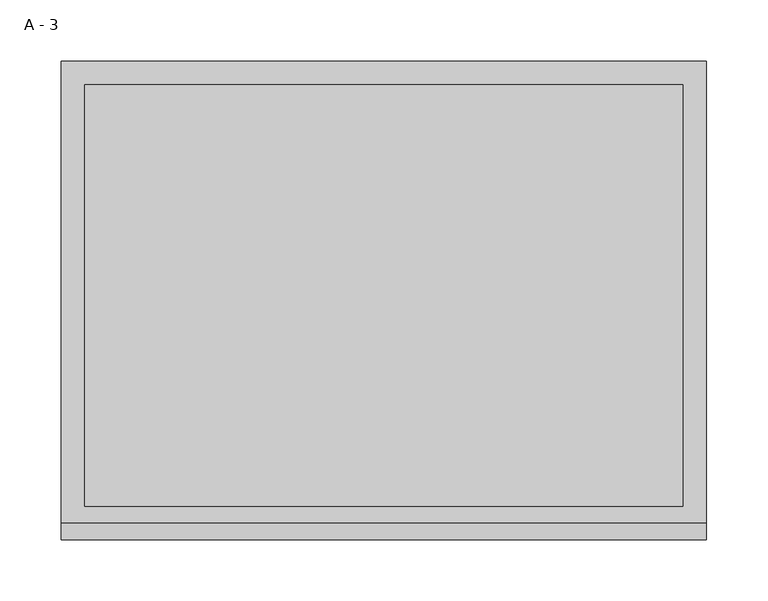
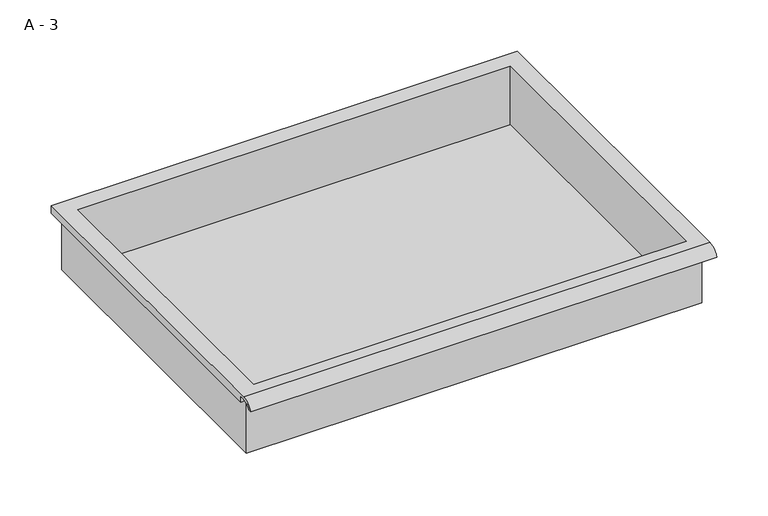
"""IFC4 building model written with IfcOpenShell, lengths in millimetres: furniture geometry, HermanMiller_CoStruc_CO207_Drawer : A - 3."""

from ifc_helpers import new_model, si_unit, frame, origin, place, context, project, spatial, polyline, circle_curve, source, transform, mapped, element, save
from ifc_brep_helpers import plane_surface, cylinder_surface, revolved_surface, advanced_brep


def a_3_75e6b637(model_context):
    return source(origin(), model_context, "Body", "AdvancedBrep", [
        advanced_brep(
        [(-257.1076517, -176.2125, 1308.1), (257.2423483, -176.2125, 1308.1), (257.2423483, -176.2125, 1371.6), (263.5923483, -176.2125, 1371.6), (263.5923483, -176.2125, 1377.9071341), (-263.4576517, -176.2125, 1377.9071341), (-263.4576517, -176.2125, 1371.6), (-257.1076517, -176.2125, 1371.6), (257.2423483, 185.7375, 1308.1), (-257.1076517, 185.7375, 1308.1), (-257.1076517, 185.7375, 1371.6), (257.2423483, 185.7375, 1371.6), (263.5923483, -181.6070544, 1381.125), (263.5923483, 195.2625, 1381.125), (-263.4576517, 195.2625, 1381.125), (-263.4576517, -181.6070544, 1381.125), (244.5423483, -168.275, 1381.125), (-244.4076517, -168.275, 1381.125), (-244.4076517, 176.2125, 1381.125), (244.5423483, 176.2125, 1381.125), (263.5923483, -195.2625, 1371.6), (263.5923483, -191.8280601, 1371.6), (263.5923483, -180.4714815, 1377.9071341), (263.5923483, 195.2625, 1371.6), (-263.4576517, 195.2625, 1371.6), (-263.4576517, -180.4714815, 1377.9071341), (-263.4576517, -191.8280601, 1371.6), (-263.4576517, -195.2625, 1371.6), (-244.4076517, -168.275, 1311.1261719), (244.5423483, -168.275, 1311.1261719), (244.5423483, 176.2125, 1311.1261719), (-244.4076517, 176.2125, 1311.1261719)],
        [
            (0, 1),
            (1, 2),
            (2, 3),
            (3, 4),
            (4, 5),
            (5, 6),
            (6, 7),
            (7, 0),
            (8, 9),
            (9, 10),
            (10, 11),
            (11, 8),
            (0, 9),
            (8, 1),
            (11, 2),
            (12, 13),
            (13, 14),
            (14, 15),
            (15, 12),
            (16, 17),
            (17, 18),
            (18, 19),
            (19, 16),
            (7, 10),
            (12, 20, circle_curve(frame((263.5923483, -181.6070544, 1366.5739859), z_axis=(1.0, 0.0, 0.0), x_axis=(0.0, 1.0, 0.0)), 14.5510141)),
            (20, 21),
            (21, 22, circle_curve(frame((263.5923483, -181.6070544, 1366.5739859), z_axis=(-1.0, 0.0, 0.0), x_axis=(0.0, 1.0, 0.0)), 11.3898979)),
            (22, 4),
            (3, 23),
            (23, 13),
            (14, 24),
            (24, 6),
            (5, 25),
            (25, 26, circle_curve(frame((-263.4576517, -181.6070544, 1366.5739859), z_axis=(1.0, 0.0, 0.0), x_axis=(0.0, 1.0, 0.0)), 11.3898979)),
            (26, 27),
            (27, 15, circle_curve(frame((-263.4576517, -181.6070544, 1366.5739859), z_axis=(-1.0, 0.0, 0.0), x_axis=(0.0, 1.0, 0.0)), 14.5510141)),
            (27, 20),
            (26, 21),
            (25, 22),
            (24, 23),
            (28, 29),
            (29, 30),
            (30, 31),
            (31, 28),
            (28, 17),
            (16, 29),
            (19, 30),
            (18, 31),
        ],
        [
            plane_surface(frame((257.2423483, -176.2125, 1308.1), z_axis=(0.0, -1.0, 0.0), x_axis=(1.0, 0.0, 0.0))),
            plane_surface(frame((257.2423483, 185.7375, 1308.1), z_axis=(0.0, 1.0, 0.0), x_axis=(-1.0, 0.0, 0.0))),
            plane_surface(frame((-257.1076517, -176.2125, 1308.1), z_axis=(0.0, 0.0, -1.0), x_axis=(0.0, 1.0, 0.0))),
            plane_surface(frame((257.2423483, -176.2125, 1308.1), z_axis=(1.0, 0.0, 0.0), x_axis=(0.0, 1.0, 0.0))),
            plane_surface(frame((257.2423483, -176.2125, 1381.125), z_axis=(0.0, 0.0, 1.0), x_axis=(0.0, 1.0, 0.0))),
            plane_surface(frame((-257.1076517, -176.2125, 1381.125), z_axis=(-1.0, 0.0, 0.0), x_axis=(0.0, 1.0, 0.0))),
            plane_surface(frame((263.5923483, 195.2625, 1381.125), z_axis=(1.0, 0.0, 0.0), x_axis=(0.0, -1.0, 0.0))),
            plane_surface(frame((-263.4576517, 195.2625, 1381.125), z_axis=(-1.0, 0.0, 0.0), x_axis=(0.0, 1.0, 0.0))),
            cylinder_surface(frame((-263.4576517, -181.6070544, 1366.5739859), z_axis=(1.0, 0.0, 0.0), x_axis=(0.0, 1.0, 0.0)), 14.5510141),
            plane_surface(frame((263.5923483, -195.2625, 1371.6), z_axis=(0.0, -7.172997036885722e-12, -1.0), x_axis=(-1.0, 0.0, 0.0))),
            revolved_surface(polyline([(-263.4576517, -170.21715650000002, 1366.5739859), (263.59234829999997, -170.21715650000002, 1366.5739859)]), (-263.4576517, -181.6070544, 1366.5739859), (-1.0, 0.0, 0.0)),
            plane_surface(frame((263.5923483, -180.4714815, 1377.9071341), z_axis=(0.0, -1.779784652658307e-11, -1.0), x_axis=(-1.0, 0.0, 0.0))),
            plane_surface(frame((263.5923483, -176.2125, 1371.6), z_axis=(0.0, 0.0, -1.0), x_axis=(-1.0, 0.0, 0.0))),
            plane_surface(frame((263.5923483, 195.2625, 1371.6), z_axis=(0.0, 1.0, 0.0), x_axis=(-1.0, 0.0, 0.0))),
            plane_surface(frame((244.5423483, -168.275, 1311.1261719), z_axis=(0.0, 0.0, 1.0), x_axis=(-1.0, 0.0, 0.0))),
            plane_surface(frame((-244.4076517, -168.275, 1381.125), z_axis=(0.0, 1.0, 0.0), x_axis=(0.0, 0.0, -1.0))),
            plane_surface(frame((244.5423483, -168.275, 1381.125), z_axis=(-1.0, 0.0, 0.0), x_axis=(0.0, 0.0, -1.0))),
            plane_surface(frame((244.5423483, 176.2125, 1381.125), z_axis=(0.0, -1.0, 0.0), x_axis=(0.0, 0.0, -1.0))),
            plane_surface(frame((-244.4076517, 176.2125, 1381.125), z_axis=(1.0, 0.0, 0.0), x_axis=(0.0, 0.0, -1.0))),
        ],
        [
            (0, [[1, 2, 3, 4, 5, 6, 7, 8]]),
            (1, [[9, 10, 11, 12]]),
            (2, [[-1, 13, -9, 14]]),
            (3, [[-14, -12, 15, -2]]),
            (4, [[16, 17, 18, 19], [20, 21, 22, 23]]),
            (5, [[-13, -8, 24, -10]]),
            (6, [[-16, 25, 26, 27, 28, -4, 29, 30]]),
            (7, [[31, 32, -6, 33, 34, 35, 36, -18]]),
            (8, [[-25, -19, -36, 37]]),
            (9, [[-26, -37, -35, 38]]),
            (10, [[-27, -38, -34, 39]]),
            (11, [[-28, -39, -33, -5]]),
            (12, [[-29, -3, -15, -11, -24, -7, -32, 40]]),
            (13, [[-30, -40, -31, -17]]),
            (14, [[41, 42, 43, 44]]),
            (15, [[-41, 45, -20, 46]]),
            (16, [[-42, -46, -23, 47]]),
            (17, [[-43, -47, -22, 48]]),
            (18, [[-44, -48, -21, -45]]),
        ],
    ),
    ])


if __name__ == "__main__":
    model = new_model("IFC4")
    model_context = context("Model", 3, world=origin())
    ifc_project = project(units=[si_unit("LENGTHUNIT", "METRE", prefix="MILLI")], contexts=[model_context])
    site = spatial("IfcSite", under=ifc_project)
    building = spatial("IfcBuilding", under=site)
    placement = place(None, origin())
    a_3_shape = a_3_75e6b637(model_context)
    element("IfcFurniture", 1, ObjectType="HermanMiller_CoStruc_CO207_Drawer : A - 3", at=placement, inside=building, context=model_context, shape_type="MappedRepresentation", body=[
        mapped(a_3_shape, transform((0.0, 0.0, 0.0), x_axis=(1.0, 0.0, 0.0), y_axis=(0.0, 1.0, 0.0), z_axis=(0.0, 0.0, 1.0))),
    ])
    save(model, "model.ifc")
